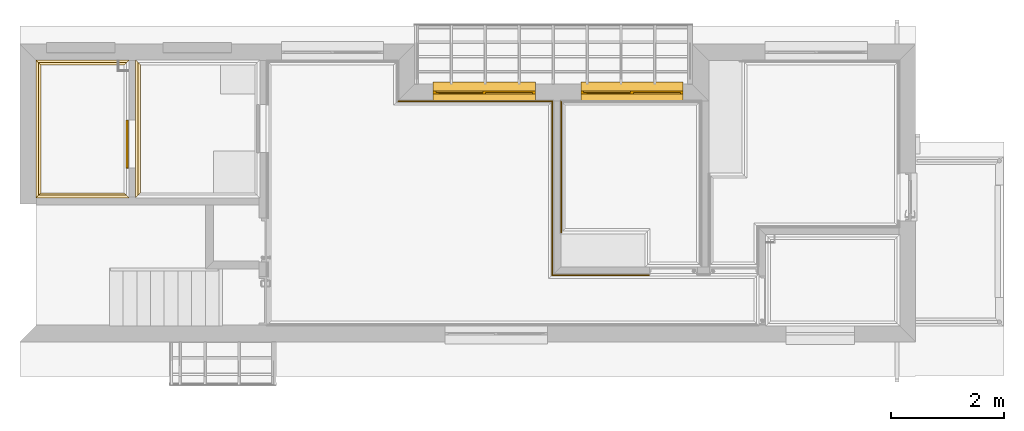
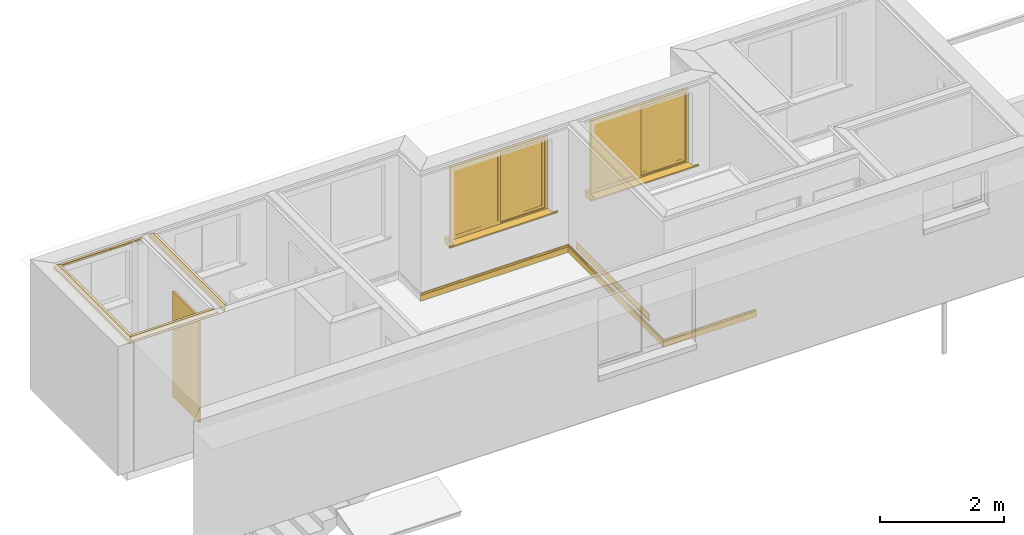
# One storey, part 7 of 18: 8 coverings, 2 windows, 1 door.
"""IFC2X3 building model written with IfcOpenShell, lengths in millimetres."""

from ifc_helpers import new_model, entity, si_unit, converted_unit, money_unit, direction, frame, origin_with_axes, place, context, subcontext, project, spatial, faceted_brep, source, transform, mapped, material, material_list, type_object, element, save


model = new_model("IFC2X3")

# Units and contexts
model_context = context("Model", 3, precision=1e-05, world=origin_with_axes(), true_north=direction((0.0, 1.0)))
body_context = subcontext(model_context, "Body", "Model", "MODEL_VIEW")
ifc_project = project(units=[si_unit("LENGTHUNIT", "METRE", prefix="MILLI"), si_unit("AREAUNIT", "SQUARE_METRE"), si_unit("VOLUMEUNIT", "CUBIC_METRE"), converted_unit("PLANEANGLEUNIT", "DEGREE", entity("IfcPlaneAngleMeasure", 0.0174532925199), si_unit("PLANEANGLEUNIT", "RADIAN"), dimensions=[0, 0, 0, 0, 0, 0, 0]), si_unit("SOLIDANGLEUNIT", "STERADIAN"), money_unit("AUD"), si_unit("TIMEUNIT", "SECOND"), si_unit("MASSUNIT", "GRAM"), si_unit("THERMODYNAMICTEMPERATUREUNIT", "DEGREE_CELSIUS"), si_unit("LUMINOUSINTENSITYUNIT", "LUMEN")], contexts=[model_context])

# Site, building, storey
site_placement = place(None, origin_with_axes())
site = spatial("IfcSite", under=ifc_project, at=site_placement, Name="Lot 1. East Hills", CompositionType="ELEMENT")
building_placement = place(site_placement, origin_with_axes())
building = spatial("IfcBuilding", under=site, at=building_placement, Name="Proposed Units 7 & 8", CompositionType="ELEMENT")
storey_placement = place(building_placement, frame((0.0, 0.0, 5859.0), z_axis=(0.0, 0.0, 1.0), x_axis=(1.0, 0.0, 0.0)))
storey = spatial("IfcBuildingStorey", under=building, at=storey_placement, Name="Level 1", CompositionType="ELEMENT", Elevation=5859.0)

# Door
ifc_material_1 = material(Name="Empty Fill")
ifc_material_list_1 = material_list([ifc_material_1, ifc_material_1, ifc_material_1, ifc_material_1, ifc_material_1, ifc_material_1, ifc_material_1, ifc_material_1, ifc_material_1])
door_style = type_object("IfcDoorStyle", Name="D1 Sliding Ext 11", ConstructionType="NOTDEFINED", OperationType="SLIDING_TO_RIGHT", ParameterTakesPrecedence=False, Sizeable=False)
shared_shape_1 = source(origin_with_axes(), body_context, "Body", "Brep", [
    faceted_brep([(425.0, 40.0, 0.0), (425.0, 5.0, 0.0), (-425.0, 5.0, 0.0), (-425.0, 40.0, 0.0), (425.0, 40.0, 2067.0), (425.0, 5.0, 2067.0), (-425.0, 5.0, 2067.0), (-425.0, 40.0, 2067.0)], [[[0, 1, 2, 3]], [[4, 5, 1, 0]], [[1, 5, 6, 2]], [[3, 2, 6, 7]], [[0, 3, 7, 4]], [[7, 6, 5, 4]]]),
])
door_placement = place(storey_placement, frame((1915.0, 3068.00000067, 0.0), z_axis=(0.0, 0.0, 1.0), x_axis=(0.0, 1.0, 0.0)))
element("IfcDoor", 1, at=door_placement, inside=storey, type_object=door_style, material=ifc_material_list_1, Name="10 D1 Sliding Ext 11 0.85 x 2.067 x 1 Door", OverallHeight=2067.0, OverallWidth=850.0, context=body_context, shape_type="MappedRepresentation", body=[
    mapped(shared_shape_1, transform((425.0, 0.0, 0.0))),
])

# Windows
ifc_material_2 = material(Name="air space")
ifc_material_list_2 = material_list([ifc_material_1, ifc_material_2, ifc_material_1, ifc_material_1, ifc_material_1, ifc_material_1, ifc_material_1, ifc_material_1, ifc_material_1, ifc_material_1])
window_style = type_object("IfcWindowStyle", Name="W2 Horizontal Slide 11", ConstructionType="NOTDEFINED", OperationType="DOUBLE_PANEL_VERTICAL", ParameterTakesPrecedence=False, Sizeable=False)
shared_shape_2 = source(origin_with_axes(), body_context, "Body", "Brep", [
    faceted_brep([(905.0, -16.6666666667, 0.0), (905.0, 160.83778132, -31.2988233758), (-905.0, 160.83778132, -31.2988233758), (-905.0, -16.6666666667, 0.0), (905.0, -37.5044479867, -118.176930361), (905.0, 140.0, -149.475753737), (-905.0, 140.0, -149.475753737), (-905.0, -37.5044479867, -118.176930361)], [[[0, 1, 2, 3]], [[0, 4, 5, 1]], [[1, 5, 6, 2]], [[3, 2, 6, 7]], [[4, 0, 3, 7]], [[5, 4, 7, 6]]]),
    faceted_brep([(-905.0, -50.0, 0.0), (-905.0, -174.999998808, 0.0), (-905.0, -174.999998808, 25.0), (-905.0, -50.0, 25.0), (905.0, -50.0, 0.0), (905.0, -174.999998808, 0.0), (1005.0, -174.999998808, 0.0), (1005.0, -204.999998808, 0.0), (-1005.0, -204.999998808, 0.0), (-1005.0, -174.999998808, 0.0), (-1005.0, -174.999998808, 25.0), (-1005.0, -204.999998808, 25.0), (1005.0, -204.999998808, 25.0), (1005.0, -174.999998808, 25.0), (905.0, -174.999998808, 25.0), (905.0, -50.0, 25.0)], [[[0, 1, 2, 3]], [[0, 4, 5, 6, 7, 8, 9, 1]], [[1, 9, 10, 2]], [[3, 2, 10, 11, 12, 13, 14, 15]], [[4, 0, 3, 15]], [[5, 4, 15, 14]], [[6, 5, 14, 13]], [[7, 6, 13, 12]], [[8, 7, 12, 11]], [[9, 8, 11, 10]]]),
    faceted_brep([(855.0, 0.0, 50.0), (855.0, -50.0, 50.0), (855.0, -50.0, 1407.0), (855.0, 0.0, 1407.0), (905.0, 0.0, 50.0), (905.0, -50.0, 50.0), (905.0, -50.0, 1407.0), (905.0, 0.0, 1407.0)], [[[0, 1, 2, 3]], [[4, 5, 1, 0]], [[1, 5, 6, 2]], [[3, 2, 6, 7]], [[0, 3, 7, 4]], [[7, 6, 5, 4]]]),
    faceted_brep([(-905.0, 0.0, 50.0), (-905.0, -50.0, 50.0), (-905.0, -50.0, 1407.0), (-905.0, 0.0, 1407.0), (-855.0, 0.0, 50.0), (-855.0, -50.0, 50.0), (-855.0, -50.0, 1407.0), (-855.0, 0.0, 1407.0)], [[[0, 1, 2, 3]], [[4, 5, 1, 0]], [[1, 5, 6, 2]], [[3, 2, 6, 7]], [[0, 3, 7, 4]], [[7, 6, 5, 4]]]),
    faceted_brep([(905.0, 0.0, 0.0), (905.0, -50.0, 0.0), (-905.0, -50.0, 0.0), (-905.0, 0.0, 0.0), (905.0, 0.0, 50.0), (905.0, -50.0, 50.0), (855.0, -50.0, 50.0), (-855.0, -50.0, 50.0), (-905.0, -50.0, 50.0), (-905.0, 0.0, 50.0), (-855.0, 0.0, 50.0), (855.0, 0.0, 50.0)], [[[0, 1, 2, 3]], [[4, 5, 1, 0]], [[1, 5, 6, 7, 8, 2]], [[3, 2, 8, 9]], [[0, 3, 9, 10, 11, 4]], [[11, 6, 5, 4]], [[10, 7, 6, 11]], [[9, 8, 7, 10]]]),
    faceted_brep([(905.0, 0.0, 1407.0), (905.0, -50.0, 1407.0), (855.0, -50.0, 1407.0), (855.0, 0.0, 1407.0), (905.0, 0.0, 1457.0), (905.0, -50.0, 1457.0), (-905.0, -50.0, 1457.0), (-905.0, -50.0, 1407.0), (-855.0, -50.0, 1407.0), (-855.0, 0.0, 1407.0), (-905.0, 0.0, 1407.0), (-905.0, 0.0, 1457.0)], [[[0, 1, 2, 3]], [[4, 5, 1, 0]], [[1, 5, 6, 7, 8, 2]], [[3, 2, 8, 9]], [[0, 3, 9, 10, 11, 4]], [[11, 6, 5, 4]], [[10, 7, 6, 11]], [[9, 8, 7, 10]]]),
    faceted_brep([(805.0, 0.0, 100.0), (805.0, -25.0, 100.0), (805.0, -25.0, 1357.0), (805.0, 0.0, 1357.0), (855.0, 0.0, 100.0), (855.0, -25.0, 100.0), (855.0, -25.0, 1357.0), (855.0, 0.0, 1357.0)], [[[0, 1, 2, 3]], [[4, 5, 1, 0]], [[1, 5, 6, 2]], [[3, 2, 6, 7]], [[0, 3, 7, 4]], [[7, 6, 5, 4]]]),
    faceted_brep([(-25.0, 0.0, 100.0), (-25.0, -25.0, 100.0), (-25.0, -25.0, 1357.0), (-25.0, 0.0, 1357.0), (25.0, 0.0, 100.0), (25.0, -25.0, 100.0), (25.0, -25.0, 1357.0), (25.0, 0.0, 1357.0)], [[[0, 1, 2, 3]], [[4, 5, 1, 0]], [[1, 5, 6, 2]], [[3, 2, 6, 7]], [[0, 3, 7, 4]], [[7, 6, 5, 4]]]),
    faceted_brep([(-25.0, 0.0, 50.0), (-25.0, -25.0, 50.0), (-25.0, -25.0, 100.0), (-25.0, 0.0, 100.0), (855.0, 0.0, 50.0), (855.0, -25.0, 50.0), (855.0, -25.0, 100.0), (805.0, -25.0, 100.0), (25.0, -25.0, 100.0), (25.0, 0.0, 100.0), (805.0, 0.0, 100.0), (855.0, 0.0, 100.0)], [[[0, 1, 2, 3]], [[4, 5, 1, 0]], [[1, 5, 6, 7, 8, 2]], [[3, 2, 8, 9]], [[0, 3, 9, 10, 11, 4]], [[11, 6, 5, 4]], [[10, 7, 6, 11]], [[9, 8, 7, 10]]]),
    faceted_brep([(855.0, 0.0, 1407.0), (855.0, -25.0, 1407.0), (855.0, -25.0, 1357.0), (855.0, 0.0, 1357.0), (-25.0, 0.0, 1407.0), (-25.0, -25.0, 1407.0), (-25.0, -25.0, 1357.0), (25.0, -25.0, 1357.0), (805.0, -25.0, 1357.0), (805.0, 0.0, 1357.0), (25.0, 0.0, 1357.0), (-25.0, 0.0, 1357.0)], [[[0, 1, 2, 3]], [[4, 5, 1, 0]], [[1, 5, 6, 7, 8, 2]], [[3, 2, 8, 9]], [[0, 3, 9, 10, 11, 4]], [[11, 6, 5, 4]], [[10, 7, 6, 11]], [[9, 8, 7, 10]]]),
    faceted_brep([(805.0, -2.5, 100.0), (805.0, -22.5, 100.0), (25.0, -22.5, 100.0), (25.0, -2.5, 100.0), (805.0, -2.5, 1357.0), (805.0, -22.5, 1357.0), (25.0, -22.5, 1357.0), (25.0, -2.5, 1357.0)], [[[0, 1, 2, 3]], [[4, 5, 1, 0]], [[1, 5, 6, 2]], [[3, 2, 6, 7]], [[0, 3, 7, 4]], [[7, 6, 5, 4]]]),
    faceted_brep([(-25.0, -25.0, 100.0), (-25.0, -50.0, 100.0), (-25.0, -50.0, 1357.0), (-25.0, -25.0, 1357.0), (25.0, -25.0, 100.0), (25.0, -50.0, 100.0), (25.0, -50.0, 1357.0), (25.0, -25.0, 1357.0)], [[[0, 1, 2, 3]], [[4, 5, 1, 0]], [[1, 5, 6, 2]], [[3, 2, 6, 7]], [[0, 3, 7, 4]], [[7, 6, 5, 4]]]),
    faceted_brep([(-855.0, -25.0, 100.0), (-855.0, -50.0, 100.0), (-855.0, -50.0, 1357.0), (-855.0, -25.0, 1357.0), (-805.0, -25.0, 100.0), (-805.0, -50.0, 100.0), (-805.0, -50.0, 1357.0), (-805.0, -25.0, 1357.0)], [[[0, 1, 2, 3]], [[4, 5, 1, 0]], [[1, 5, 6, 2]], [[3, 2, 6, 7]], [[0, 3, 7, 4]], [[7, 6, 5, 4]]]),
    faceted_brep([(-855.0, -25.0, 50.0), (-855.0, -50.0, 50.0), (-855.0, -50.0, 100.0), (-855.0, -25.0, 100.0), (25.0, -25.0, 50.0), (25.0, -50.0, 50.0), (25.0, -50.0, 100.0), (-25.0, -50.0, 100.0), (-805.0, -50.0, 100.0), (-805.0, -25.0, 100.0), (-25.0, -25.0, 100.0), (25.0, -25.0, 100.0)], [[[0, 1, 2, 3]], [[4, 5, 1, 0]], [[1, 5, 6, 7, 8, 2]], [[3, 2, 8, 9]], [[0, 3, 9, 10, 11, 4]], [[11, 6, 5, 4]], [[10, 7, 6, 11]], [[9, 8, 7, 10]]]),
    faceted_brep([(25.0, -25.0, 1407.0), (25.0, -50.0, 1407.0), (25.0, -50.0, 1357.0), (25.0, -25.0, 1357.0), (-855.0, -25.0, 1407.0), (-855.0, -50.0, 1407.0), (-855.0, -50.0, 1357.0), (-805.0, -50.0, 1357.0), (-25.0, -50.0, 1357.0), (-25.0, -25.0, 1357.0), (-805.0, -25.0, 1357.0), (-855.0, -25.0, 1357.0)], [[[0, 1, 2, 3]], [[4, 5, 1, 0]], [[1, 5, 6, 7, 8, 2]], [[3, 2, 8, 9]], [[0, 3, 9, 10, 11, 4]], [[11, 6, 5, 4]], [[10, 7, 6, 11]], [[9, 8, 7, 10]]]),
    faceted_brep([(-25.0, -27.5, 100.0), (-25.0, -47.5, 100.0), (-805.0, -47.5, 100.0), (-805.0, -27.5, 100.0), (-25.0, -27.5, 1357.0), (-25.0, -47.5, 1357.0), (-805.0, -47.5, 1357.0), (-805.0, -27.5, 1357.0)], [[[0, 1, 2, 3]], [[4, 5, 1, 0]], [[1, 5, 6, 2]], [[3, 2, 6, 7]], [[0, 3, 7, 4]], [[7, 6, 5, 4]]]),
])
for number, where, z_axis, x_axis, name in (
    (2, (7300.0, 4553.0, 857.0), (0.0, 0.0, 1.0), (1.0, 0.0, 0.0), "W003 W2 Horizontal Slide 11 1.81 x 1.457 Window"),
    (3, (9912.49999955, 4553.0, 857.0), (0.0, 0.0, 1.0), (1.0, 0.0, 0.0), "W004 W2 Horizontal Slide 11 1.81 x 1.457 Window"),
):
    element("IfcWindow", number, at=place(storey_placement, frame(where, z_axis=z_axis, x_axis=x_axis)), inside=storey, type_object=window_style, material=ifc_material_list_2, Name=name, OverallHeight=1457.0, OverallWidth=1810.0, context=body_context, shape_type="MappedRepresentation", body=[
        mapped(shared_shape_2, transform((905.0, -120.0, 0.0))),
    ])

# Coverings
ifc_material_3 = material(Name="50 %")
covering_type = type_object("IfcCoveringType", Name="Molding Straight 12", PredefinedType="NOTDEFINED")
shared_shape_3 = source(origin_with_axes(), body_context, "Body", "Brep", [
    faceted_brep([(2720.97014761, -19.0298507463, -150.0), (2720.97014761, -19.0298507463, -40.2985074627), (-19.0298507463, -19.0298507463, -40.2985074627), (-19.0298507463, -19.0298507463, -150.0), (2739.99999836, 0.0, -150.0), (2739.99999836, 0.0, -120.895522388), (2737.76119239, -2.23880597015, -118.656716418), (2737.76119239, -2.23880597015, -24.6268656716), (2739.99999836, 0.0, -22.3880597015), (2739.99999836, 0.0, 0.0), (2733.28358045, -6.71641791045, 0.0), (2731.04477448, -8.9552238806, -4.4776119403), (2730.80802769, -9.19197067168, -5.17383533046), (2730.76683928, -9.23315907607, -5.90805571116), (2730.92423203, -9.07576633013, -6.62638959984), (2731.26865508, -8.73134328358, -7.27611940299), (2731.82878532, -8.1712130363, -8.36014699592), (2732.05223717, -7.94776119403, -9.55970149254), (2731.75146155, -8.2485368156, -12.6066468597), (2730.6421092, -9.35788915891, -15.4603601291), (2728.80596851, -11.1940298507, -17.9104477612), (2724.37880085, -15.6211975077, -24.0923863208), (2722.0895506, -17.9104477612, -31.3432835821), (2722.07427768, -17.9257206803, -33.6342255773), (2722.69852028, -17.3014780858, -35.8385326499), (2723.91274409, -16.087254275, -37.7812907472), (2725.62059919, -14.3793991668, -39.3083399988), (2727.68656553, -12.3134328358, -40.2985074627), (-12.3134328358, -12.3134328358, -40.2985074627), (-14.3793991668, -14.3793991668, -39.3083399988), (-16.087254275, -16.087254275, -37.7812907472), (-17.3014780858, -17.3014780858, -35.8385326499), (-17.9257206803, -17.9257206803, -33.6342255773), (-17.9104477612, -17.9104477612, -31.3432835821), (-15.6211975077, -15.6211975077, -24.0923863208), (-11.1940298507, -11.1940298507, -17.9104477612), (-9.35788915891, -9.35788915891, -15.4603601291), (-8.2485368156, -8.2485368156, -12.6066468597), (-7.94776119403, -7.94776119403, -9.55970149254), (-8.17121303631, -8.1712130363, -8.36014699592), (-8.73134328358, -8.73134328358, -7.27611940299), (-9.07576633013, -9.07576633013, -6.62638959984), (-9.23315907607, -9.23315907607, -5.90805571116), (-9.19197067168, -9.19197067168, -5.17383533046), (-8.9552238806, -8.9552238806, -4.4776119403), (-6.71641791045, -6.71641791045, 0.0), (0.0, 0.0, 0.0), (0.0, 0.0, -22.3880597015), (-2.23880597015, -2.23880597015, -24.6268656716), (-2.23880597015, -2.23880597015, -118.656716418), (0.0, 0.0, -120.895522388), (0.0, 0.0, -150.0)], [[[0, 1, 2, 3]], [[0, 4, 5, 6, 7, 8, 9, 10, 11, 12, 13, 14, 15, 16, 17, 18, 19, 20, 21, 22, 23, 24, 25, 26, 27, 1]], [[1, 27, 28, 2]], [[3, 2, 28, 29, 30, 31, 32, 33, 34, 35, 36, 37, 38, 39, 40, 41, 42, 43, 44, 45, 46, 47, 48, 49, 50, 51]], [[4, 0, 3, 51]], [[5, 4, 51, 50]], [[6, 5, 50, 49]], [[7, 6, 49, 48]], [[8, 7, 48, 47]], [[9, 8, 47, 46]], [[10, 9, 46, 45]], [[11, 10, 45, 44]], [[12, 11, 44, 43]], [[13, 12, 43, 42]], [[14, 13, 42, 41]], [[15, 14, 41, 40]], [[16, 15, 40, 39]], [[17, 16, 39, 38]], [[18, 17, 38, 37]], [[19, 18, 37, 36]], [[20, 19, 36, 35]], [[21, 20, 35, 34]], [[22, 21, 34, 33]], [[23, 22, 33, 32]], [[24, 23, 32, 31]], [[25, 24, 31, 30]], [[26, 25, 30, 29]], [[27, 26, 29, 28]]]),
])
covering_1_placement = place(storey_placement, frame((6680.00000119, 4258.00000119, 150.0), z_axis=(0.0, 0.0, 1.0), x_axis=(1.0, 0.0, 0.0)))
element("IfcCovering", 4, at=covering_1_placement, inside=storey, type_object=covering_type, material=ifc_material_3, Name="Sk_01 - Molding Straight 12 - object -", PredefinedType="NOTDEFINED", context=body_context, shape_type="MappedRepresentation", body=[
    mapped(shared_shape_3, transform((0.0, 0.0, 0.0))),
])
shared_shape_4 = source(origin_with_axes(), body_context, "Body", "Brep", [
    faceted_brep([(3094.02985149, -19.0298507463, -150.0), (3094.02985149, -19.0298507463, -40.2985074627), (19.0298507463, -19.0298507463, -40.2985074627), (19.0298507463, -19.0298507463, -150.0), (3075.00000075, 0.0, -150.0), (3075.00000075, 0.0, -120.895522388), (3077.23880672, -2.23880597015, -118.656716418), (3077.23880672, -2.23880597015, -24.6268656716), (3075.00000075, 0.0, -22.3880597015), (3075.00000075, 0.0, 0.0), (3081.71641866, -6.71641791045, 0.0), (3083.95522463, -8.9552238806, -4.4776119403), (3084.19197142, -9.19197067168, -5.17383533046), (3084.23315982, -9.23315907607, -5.90805571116), (3084.07576708, -9.07576633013, -6.62638959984), (3083.73134403, -8.73134328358, -7.27611940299), (3083.17121378, -8.1712130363, -8.36014699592), (3082.94776194, -7.94776119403, -9.55970149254), (3083.24853756, -8.2485368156, -12.6066468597), (3084.3578899, -9.35788915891, -15.4603601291), (3086.1940306, -11.1940298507, -17.9104477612), (3090.62119825, -15.6211975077, -24.0923863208), (3092.91044851, -17.9104477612, -31.3432835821), (3092.92572143, -17.9257206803, -33.6342255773), (3092.30147883, -17.3014780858, -35.8385326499), (3091.08725502, -16.087254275, -37.7812907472), (3089.37939991, -14.3793991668, -39.3083399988), (3087.31343358, -12.3134328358, -40.2985074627), (12.3134328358, -12.3134328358, -40.2985074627), (14.3793991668, -14.3793991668, -39.3083399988), (16.087254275, -16.087254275, -37.7812907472), (17.3014780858, -17.3014780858, -35.8385326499), (17.9257206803, -17.9257206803, -33.6342255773), (17.9104477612, -17.9104477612, -31.3432835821), (15.6211975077, -15.6211975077, -24.0923863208), (11.1940298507, -11.1940298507, -17.9104477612), (9.35788915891, -9.35788915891, -15.4603601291), (8.2485368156, -8.2485368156, -12.6066468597), (7.94776119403, -7.94776119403, -9.55970149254), (8.1712130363, -8.1712130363, -8.36014699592), (8.73134328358, -8.73134328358, -7.27611940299), (9.07576633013, -9.07576633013, -6.62638959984), (9.23315907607, -9.23315907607, -5.90805571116), (9.19197067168, -9.19197067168, -5.17383533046), (8.9552238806, -8.9552238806, -4.4776119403), (6.71641791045, -6.71641791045, 0.0), (0.0, 0.0, 0.0), (0.0, 0.0, -22.3880597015), (2.23880597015, -2.23880597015, -24.6268656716), (2.23880597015, -2.23880597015, -118.656716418), (0.0, 0.0, -120.895522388), (0.0, 0.0, -150.0)], [[[0, 1, 2, 3]], [[0, 4, 5, 6, 7, 8, 9, 10, 11, 12, 13, 14, 15, 16, 17, 18, 19, 20, 21, 22, 23, 24, 25, 26, 27, 1]], [[1, 27, 28, 2]], [[3, 2, 28, 29, 30, 31, 32, 33, 34, 35, 36, 37, 38, 39, 40, 41, 42, 43, 44, 45, 46, 47, 48, 49, 50, 51]], [[4, 0, 3, 51]], [[5, 4, 51, 50]], [[6, 5, 50, 49]], [[7, 6, 49, 48]], [[8, 7, 48, 47]], [[9, 8, 47, 46]], [[10, 9, 46, 45]], [[11, 10, 45, 44]], [[12, 11, 44, 43]], [[13, 12, 43, 42]], [[14, 13, 42, 41]], [[15, 14, 41, 40]], [[16, 15, 40, 39]], [[17, 16, 39, 38]], [[18, 17, 38, 37]], [[19, 18, 37, 36]], [[20, 19, 36, 35]], [[21, 20, 35, 34]], [[22, 21, 34, 33]], [[23, 22, 33, 32]], [[24, 23, 32, 31]], [[25, 24, 31, 30]], [[26, 25, 30, 29]], [[27, 26, 29, 28]]]),
])
covering_2_placement = place(storey_placement, frame((9419.99999955, 4258.00000119, 150.0), z_axis=(0.0, 0.0, 1.0), x_axis=(0.0, -1.0, 0.0)))
element("IfcCovering", 5, at=covering_2_placement, inside=storey, type_object=covering_type, material=ifc_material_3, Name="Sk_01 - Molding Straight 12 - object -", PredefinedType="NOTDEFINED", context=body_context, shape_type="MappedRepresentation", body=[
    mapped(shared_shape_4, transform((0.0, 0.0, 0.0))),
])
shared_shape_5 = source(origin_with_axes(), body_context, "Body", "Brep", [
    faceted_brep([(1702.50000052, -19.0298507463, -150.0), (1702.50000052, -19.0298507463, -40.2985074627), (-19.0298507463, -19.0298507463, -40.2985074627), (-19.0298507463, -19.0298507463, -150.0), (1702.50000052, 0.0, -150.0), (1702.50000052, 0.0, -120.895522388), (1702.50000052, -2.23880597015, -118.656716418), (1702.50000052, -2.23880597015, -24.6268656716), (1702.50000052, 0.0, -22.3880597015), (1702.50000052, 0.0, 0.0), (1702.50000052, -6.71641791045, 0.0), (1702.50000052, -8.9552238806, -4.4776119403), (1702.50000052, -9.19197067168, -5.17383533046), (1702.50000052, -9.23315907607, -5.90805571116), (1702.50000052, -9.07576633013, -6.62638959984), (1702.50000052, -8.73134328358, -7.27611940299), (1702.50000052, -8.1712130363, -8.36014699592), (1702.50000052, -7.94776119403, -9.55970149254), (1702.50000052, -8.2485368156, -12.6066468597), (1702.50000052, -9.35788915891, -15.4603601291), (1702.50000052, -11.1940298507, -17.9104477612), (1702.50000052, -15.6211975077, -24.0923863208), (1702.50000052, -17.9104477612, -31.3432835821), (1702.50000052, -17.9257206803, -33.6342255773), (1702.50000052, -17.3014780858, -35.8385326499), (1702.50000052, -16.087254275, -37.7812907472), (1702.50000052, -14.3793991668, -39.3083399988), (1702.50000052, -12.3134328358, -40.2985074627), (-12.3134328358, -12.3134328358, -40.2985074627), (-14.3793991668, -14.3793991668, -39.3083399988), (-16.087254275, -16.087254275, -37.7812907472), (-17.3014780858, -17.3014780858, -35.8385326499), (-17.9257206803, -17.9257206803, -33.6342255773), (-17.9104477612, -17.9104477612, -31.3432835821), (-15.6211975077, -15.6211975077, -24.0923863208), (-11.1940298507, -11.1940298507, -17.9104477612), (-9.35788915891, -9.35788915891, -15.4603601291), (-8.2485368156, -8.2485368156, -12.6066468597), (-7.94776119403, -7.94776119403, -9.55970149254), (-8.1712130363, -8.1712130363, -8.36014699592), (-8.73134328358, -8.73134328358, -7.27611940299), (-9.07576633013, -9.07576633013, -6.62638959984), (-9.23315907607, -9.23315907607, -5.90805571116), (-9.19197067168, -9.19197067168, -5.17383533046), (-8.9552238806, -8.9552238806, -4.4776119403), (-6.71641791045, -6.71641791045, 0.0), (0.0, 0.0, 0.0), (0.0, 0.0, -22.3880597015), (-2.23880597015, -2.23880597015, -24.6268656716), (-2.23880597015, -2.23880597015, -118.656716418), (0.0, 0.0, -120.895522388), (0.0, 0.0, -150.0)], [[[0, 1, 2, 3]], [[0, 4, 5, 6, 7, 8, 9, 10, 11, 12, 13, 14, 15, 16, 17, 18, 19, 20, 21, 22, 23, 24, 25, 26, 27, 1]], [[1, 27, 28, 2]], [[3, 2, 28, 29, 30, 31, 32, 33, 34, 35, 36, 37, 38, 39, 40, 41, 42, 43, 44, 45, 46, 47, 48, 49, 50, 51]], [[4, 0, 3, 51]], [[5, 4, 51, 50]], [[6, 5, 50, 49]], [[7, 6, 49, 48]], [[8, 7, 48, 47]], [[9, 8, 47, 46]], [[10, 9, 46, 45]], [[11, 10, 45, 44]], [[12, 11, 44, 43]], [[13, 12, 43, 42]], [[14, 13, 42, 41]], [[15, 14, 41, 40]], [[16, 15, 40, 39]], [[17, 16, 39, 38]], [[18, 17, 38, 37]], [[19, 18, 37, 36]], [[20, 19, 36, 35]], [[21, 20, 35, 34]], [[22, 21, 34, 33]], [[23, 22, 33, 32]], [[24, 23, 32, 31]], [[25, 24, 31, 30]], [[26, 25, 30, 29]], [[27, 26, 29, 28]]]),
])
covering_3_placement = place(storey_placement, frame((9419.99999955, 1183.00000045, 150.0), z_axis=(0.0, 0.0, 1.0), x_axis=(1.0, 0.0, 0.0)))
element("IfcCovering", 6, at=covering_3_placement, inside=storey, type_object=covering_type, material=ifc_material_3, Name="Sk_01 - Molding Straight 12 - object -", PredefinedType="NOTDEFINED", context=body_context, shape_type="MappedRepresentation", body=[
    mapped(shared_shape_5, transform((0.0, 0.0, 0.0))),
])
shared_shape_6 = source(origin_with_axes(), body_context, "Body", "Brep", [
    faceted_brep([(2315.31316554, -19.0298507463, -150.0), (2315.31316554, -19.0298507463, -40.2985074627), (0.0, -19.0298507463, -40.2985074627), (0.0, -19.0298507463, -150.0), (2334.34301628, 0.0, -150.0), (2334.34301628, 0.0, -120.895522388), (2332.10421031, -2.23880597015, -118.656716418), (2332.10421031, -2.23880597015, -24.6268656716), (2334.34301628, 0.0, -22.3880597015), (2334.34301628, 0.0, 0.0), (2327.62659837, -6.71641791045, 0.0), (2325.3877924, -8.9552238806, -4.4776119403), (2325.15104561, -9.19197067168, -5.17383533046), (2325.10985721, -9.23315907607, -5.90805571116), (2325.26724995, -9.07576633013, -6.62638959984), (2325.611673, -8.73134328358, -7.27611940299), (2326.17180325, -8.1712130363, -8.36014699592), (2326.39525509, -7.94776119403, -9.55970149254), (2326.09447947, -8.2485368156, -12.6066468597), (2324.98512712, -9.35788915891, -15.4603601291), (2323.14898643, -11.1940298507, -17.9104477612), (2318.72181877, -15.6211975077, -24.0923863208), (2316.43256852, -17.9104477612, -31.3432835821), (2316.4172956, -17.9257206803, -33.6342255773), (2317.0415382, -17.3014780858, -35.8385326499), (2318.25576201, -16.087254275, -37.7812907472), (2319.96361712, -14.3793991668, -39.3083399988), (2322.02958345, -12.3134328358, -40.2985074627), (0.0, -12.3134328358, -40.2985074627), (0.0, -14.3793991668, -39.3083399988), (0.0, -16.087254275, -37.7812907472), (0.0, -17.3014780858, -35.8385326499), (0.0, -17.9257206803, -33.6342255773), (0.0, -17.9104477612, -31.3432835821), (0.0, -15.6211975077, -24.0923863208), (0.0, -11.1940298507, -17.9104477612), (0.0, -9.35788915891, -15.4603601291), (0.0, -8.2485368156, -12.6066468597), (0.0, -7.94776119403, -9.55970149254), (0.0, -8.1712130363, -8.36014699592), (0.0, -8.73134328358, -7.27611940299), (0.0, -9.07576633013, -6.62638959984), (0.0, -9.23315907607, -5.90805571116), (0.0, -9.19197067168, -5.17383533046), (0.0, -8.9552238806, -4.4776119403), (0.0, -6.71641791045, 0.0), (0.0, 0.0, 0.0), (0.0, 0.0, -22.3880597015), (0.0, -2.23880597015, -24.6268656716), (0.0, -2.23880597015, -118.656716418), (0.0, 0.0, -120.895522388), (0.0, 0.0, -150.0)], [[[0, 1, 2, 3]], [[0, 4, 5, 6, 7, 8, 9, 10, 11, 12, 13, 14, 15, 16, 17, 18, 19, 20, 21, 22, 23, 24, 25, 26, 27, 1]], [[1, 27, 28, 2]], [[3, 2, 28, 29, 30, 31, 32, 33, 34, 35, 36, 37, 38, 39, 40, 41, 42, 43, 44, 45, 46, 47, 48, 49, 50, 51]], [[4, 0, 3, 51]], [[5, 4, 51, 50]], [[6, 5, 50, 49]], [[7, 6, 49, 48]], [[8, 7, 48, 47]], [[9, 8, 47, 46]], [[10, 9, 46, 45]], [[11, 10, 45, 44]], [[12, 11, 44, 43]], [[13, 12, 43, 42]], [[14, 13, 42, 41]], [[15, 14, 41, 40]], [[16, 15, 40, 39]], [[17, 16, 39, 38]], [[18, 17, 38, 37]], [[19, 18, 37, 36]], [[20, 19, 36, 35]], [[21, 20, 35, 34]], [[22, 21, 34, 33]], [[23, 22, 33, 32]], [[24, 23, 32, 31]], [[25, 24, 31, 30]], [[26, 25, 30, 29]], [[27, 26, 29, 28]]]),
])
covering_4_placement = place(storey_placement, frame((9559.99999896, 1923.65698491, 150.0), z_axis=(0.0, 0.0, 1.0), x_axis=(0.0, 1.0, 0.0)))
element("IfcCovering", 7, at=covering_4_placement, inside=storey, type_object=covering_type, material=ifc_material_3, Name="Sk_01 - Molding Straight 12 - object -", PredefinedType="NOTDEFINED", context=body_context, shape_type="MappedRepresentation", body=[
    mapped(shared_shape_6, transform((0.0, 0.0, 0.0))),
])
shared_shape_7 = source(origin_with_axes(), body_context, "Body", "Brep", [
    faceted_brep([(-1650.00000067, 0.0, -97.7142857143), (0.0, 0.0, -97.7142857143), (-20.5714285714, -20.5714285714, -97.7142857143), (-1629.4285721, -20.5714285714, -97.7142857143), (-1650.00000067, 0.0, -48.8571428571), (0.0, 0.0, -48.8571428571), (-48.8571428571, -48.8571428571, 0.0), (-90.0, -90.0, 0.0), (-90.0, -90.0, -12.8571428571), (-74.5714285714, -74.5714285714, -12.8571428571), (-74.5714285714, -74.5714285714, -25.7142857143), (-60.5952001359, -60.5952001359, -27.5542910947), (-47.5714285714, -47.5714285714, -32.9489139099), (-36.3876623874, -36.3876623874, -41.5305195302), (-27.8060567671, -27.8060567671, -52.7142857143), (-22.4114339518, -22.4114339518, -65.7380572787), (-20.5714285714, -20.5714285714, -79.7142857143), (-1629.4285721, -20.5714285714, -79.7142857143), (-1627.58856672, -22.4114339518, -65.7380572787), (-1622.1939439, -27.8060567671, -52.7142857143), (-1613.61233828, -36.3876623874, -41.5305195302), (-1602.4285721, -47.5714285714, -32.9489139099), (-1589.40480053, -60.5952001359, -27.5542910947), (-1575.4285721, -74.5714285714, -25.7142857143), (-1575.4285721, -74.5714285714, -12.8571428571), (-1560.00000067, -90.0, -12.8571428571), (-1560.00000067, -90.0, 0.0), (-1601.14285781, -48.8571428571, 0.0)], [[[0, 1, 2, 3]], [[4, 5, 1, 0]], [[1, 5, 6, 7, 8, 9, 10, 11, 12, 13, 14, 15, 16, 2]], [[3, 2, 16, 17]], [[0, 3, 17, 18, 19, 20, 21, 22, 23, 24, 25, 26, 27, 4]], [[27, 6, 5, 4]], [[26, 7, 6, 27]], [[25, 8, 7, 26]], [[24, 9, 8, 25]], [[23, 10, 9, 24]], [[22, 11, 10, 23]], [[21, 12, 11, 22]], [[20, 13, 12, 21]], [[19, 14, 13, 20]], [[18, 15, 14, 19]], [[17, 16, 15, 18]]]),
])
for number, where, z_axis, x_axis, name in (
    (8, (1930.0, 4983.00000067, 2523.0), (0.0, 0.0, 1.0), (1.0, 0.0, 0.0), "CEL_MOD_134 - Molding Straight 12 - object -"),
    (9, (279.999999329, 2543.00000067, 2523.0), (0.0, 0.0, 1.0), (-1.0, 0.0, 0.0), "CEL_MOD_132 - Molding Straight 12 - object -"),
):
    element("IfcCovering", number, at=place(storey_placement, frame(where, z_axis=z_axis, x_axis=x_axis)), inside=storey, type_object=covering_type, material=ifc_material_3, Name=name, PredefinedType="NOTDEFINED", context=body_context, shape_type="MappedRepresentation", body=[
        mapped(shared_shape_7, transform((0.0, 0.0, 0.0))),
    ])
shared_shape_8 = source(origin_with_axes(), body_context, "Body", "Brep", [
    faceted_brep([(-2440.0, 0.0, -97.7142857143), (0.0, 0.0, -97.7142857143), (-20.5714285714, -20.5714285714, -97.7142857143), (-2419.42857143, -20.5714285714, -97.7142857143), (-2440.0, 0.0, -48.8571428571), (0.0, 0.0, -48.8571428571), (-48.8571428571, -48.8571428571, 0.0), (-90.0, -90.0, 0.0), (-90.0, -90.0, -12.8571428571), (-74.5714285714, -74.5714285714, -12.8571428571), (-74.5714285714, -74.5714285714, -25.7142857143), (-60.5952001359, -60.5952001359, -27.5542910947), (-47.5714285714, -47.5714285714, -32.9489139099), (-36.3876623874, -36.3876623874, -41.5305195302), (-27.8060567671, -27.8060567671, -52.7142857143), (-22.4114339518, -22.4114339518, -65.7380572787), (-20.5714285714, -20.5714285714, -79.7142857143), (-2419.42857143, -20.5714285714, -79.7142857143), (-2417.58856605, -22.4114339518, -65.7380572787), (-2412.19394323, -27.8060567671, -52.7142857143), (-2403.61233761, -36.3876623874, -41.5305195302), (-2392.42857143, -47.5714285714, -32.9489139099), (-2379.40479986, -60.5952001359, -27.5542910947), (-2365.42857143, -74.5714285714, -25.7142857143), (-2365.42857143, -74.5714285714, -12.8571428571), (-2350.0, -90.0, -12.8571428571), (-2350.0, -90.0, 0.0), (-2391.14285714, -48.8571428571, 0.0)], [[[0, 1, 2, 3]], [[4, 5, 1, 0]], [[1, 5, 6, 7, 8, 9, 10, 11, 12, 13, 14, 15, 16, 2]], [[3, 2, 16, 17]], [[0, 3, 17, 18, 19, 20, 21, 22, 23, 24, 25, 26, 27, 4]], [[27, 6, 5, 4]], [[26, 7, 6, 27]], [[25, 8, 7, 26]], [[24, 9, 8, 25]], [[23, 10, 9, 24]], [[22, 11, 10, 23]], [[21, 12, 11, 22]], [[20, 13, 12, 21]], [[19, 14, 13, 20]], [[18, 15, 14, 19]], [[17, 16, 15, 18]]]),
])
for number, where, z_axis, x_axis, name in (
    (10, (2039.9999994, 4983.00000067, 2523.0), (0.0, 0.0, 1.0), (0.0, 1.0, 0.0), "CEL_MOD_128 - Molding Straight 12 - object -"),
    (11, (279.999999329, 4983.00000067, 2523.0), (0.0, 0.0, 1.0), (0.0, 1.0, 0.0), "CEL_MOD_115 - Molding Straight 12 - object -"),
):
    element("IfcCovering", number, at=place(storey_placement, frame(where, z_axis=z_axis, x_axis=x_axis)), inside=storey, type_object=covering_type, material=ifc_material_3, Name=name, PredefinedType="NOTDEFINED", context=body_context, shape_type="MappedRepresentation", body=[
        mapped(shared_shape_8, transform((0.0, 0.0, 0.0))),
    ])

save(model, "model.ifc")
